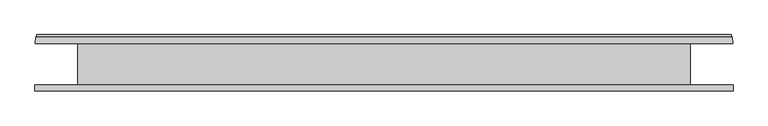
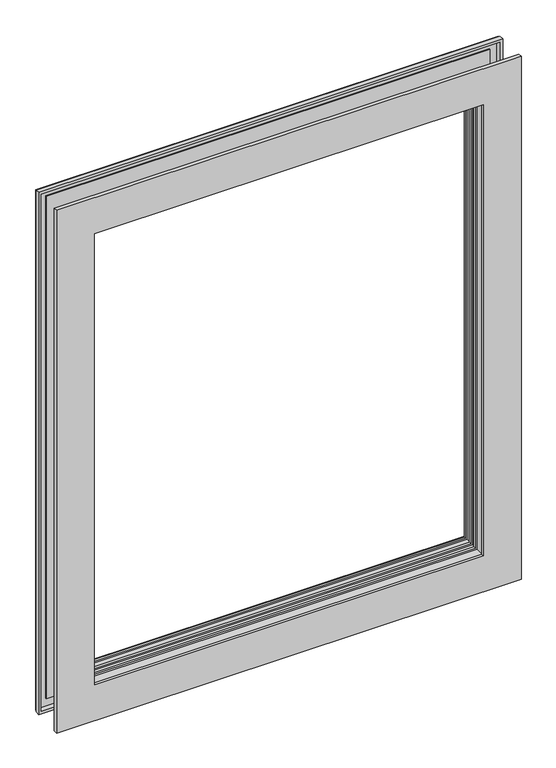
"""IFC4 building model written with IfcOpenShell, lengths in millimetres: plate geometry, Window-Profile-Danpal-AIRPT : Window-Profile-Danpal-AIRPT."""

from ifc_helpers import new_model, si_unit, origin, place, context, project, spatial, faceted_brep, source, transform, mapped, element, save


def plate_56173b51(model_context):
    return source(origin(), model_context, "Body", "Brep", [
        faceted_brep([(614.747596, -4.9191579, 1542.647596), (614.747596, -4.9191579, 16.352404), (614.747596, -10.6939057, 16.352404), (614.747596, -10.6939057, 1542.647596), (630.3467977, -1.4479515, 1558.2467977), (630.3467977, -1.4479515, 0.7532023), (630.3467977, -13.1939056, 1558.2467977), (630.3467977, -13.1939056, 0.7532023), (523.4575685, -6.1939056, 1451.3575685), (523.4575685, -6.1939056, 107.6424315), (523.4575685, -13.1939056, 107.6424315), (523.4575685, -13.1939056, 1451.3575685), (528.2575685, 24.6493556, 1456.1575685), (528.2575685, 24.6493556, 102.8424315), (528.2575685, -6.1939056, 102.8424315), (528.2575685, -6.1939056, 1456.1575685), (523.4575685, 31.6493728, 1451.3575685), (523.4575685, 31.6493728, 107.6424315), (523.4575685, 24.6493556, 107.6424315), (523.4575685, 24.6493556, 1451.3575685), (528.2575685, 46.4587019, 1456.1575685), (528.2575685, 46.4587019, 102.8424315), (528.2575685, 31.6493728, 102.8424315), (528.2575685, 31.6493728, 1456.1575685), (523.4575685, 53.4587019, 1451.3575685), (523.4575685, 53.4587019, 107.6424315), (523.4575685, 46.4587019, 107.6424315), (523.4575685, 46.4587019, 1451.3575685), (528.2575685, 72.8492839, 1456.1575685), (528.2575685, 72.8492839, 102.8424315), (528.2575685, 53.4587019, 102.8424315), (528.2575685, 53.4587019, 1456.1575685), (523.4575685, 78.8492839, 1451.3575685), (523.4575685, 78.8492839, 107.6424315), (523.4575685, 72.8492839, 107.6424315), (523.4575685, 72.8492839, 1451.3575685), (526.9648132, 75.8492839, 1454.8648132), (526.9648132, 75.8492839, 104.1351868), (526.9648132, 78.8492839, 104.1351868), (526.9648132, 78.8492839, 1454.8648132), (535.063156, 86.594775, 1462.963156), (535.063156, 86.594775, 96.036844), (535.063156, 75.8492839, 96.036844), (535.063156, 75.8492839, 1462.963156), (530.609428, 91.0992839, 1458.509428), (530.609428, 91.0992839, 100.490572), (530.609428, 86.594775, 100.490572), (530.609428, 86.594775, 1458.509428), (535.063156, 92.5992839, 1462.963156), (535.063156, 92.5992839, 96.036844), (535.063156, 91.0992839, 96.036844), (535.063156, 91.0992839, 1462.963156), (627.3575661, 87.7596953, 1555.2575661), (627.3575661, 87.7596953, 3.7424339), (627.3575661, 92.5992839, 3.7424339), (627.3575661, 92.5992839, 1555.2575661), (629.8850667, 75.8495036, 1557.7850667), (629.8850667, 75.8495036, 1.2149333), (629.1352379, 87.7596953, 1.9647621), (629.1352379, 87.7596953, 1557.0352379), (620.8960082, 87.7596953, 1548.7960082), (620.8960082, 87.7596953, 10.2039918), (622.0268893, 75.8495036, 9.0731107), (622.0268893, 75.8495036, 1549.9268893), (625.3575661, 90.7992837, 1553.2575661), (625.3575661, 90.7992837, 5.7424339), (625.3575661, 87.7596953, 5.7424339), (625.3575661, 87.7596953, 1553.2575661), (600.6106863, 89.0992837, 1528.5106863), (600.6106863, 89.0992837, 30.4893137), (600.6106863, 90.7992837, 30.4893137), (600.6106863, 90.7992837, 1528.5106863), (537.563156, 75.8495036, 1465.463156), (537.563156, 75.8495036, 93.536844), (537.563156, 89.0992837, 93.536844), (537.563156, 89.0992837, 1465.463156), (550.0785297, -10.6939057, 1477.9785297), (550.0785297, -10.6939057, 81.0214703), (550.0785297, 75.8495036, 81.0214703), (550.0785297, 75.8495036, 1477.9785297), (-664.447596, -4.9191579, 16.352404), (-664.447596, -10.6939057, 16.352404), (-680.0467977, -1.4479515, 0.7532023), (-680.0467977, -13.1939056, 0.7532023), (-573.1575685, -6.1939056, 107.6424315), (-573.1575685, -13.1939056, 107.6424315), (-577.9575685, 24.6493556, 102.8424315), (-577.9575685, -6.1939056, 102.8424315), (-573.1575685, 31.6493728, 107.6424315), (-573.1575685, 24.6493556, 107.6424315), (-577.9575685, 46.4587019, 102.8424315), (-577.9575685, 31.6493728, 102.8424315), (-573.1575685, 53.4587019, 107.6424315), (-573.1575685, 46.4587019, 107.6424315), (-577.9575685, 72.8492839, 102.8424315), (-577.9575685, 53.4587019, 102.8424315), (-573.1575685, 78.8492839, 107.6424315), (-573.1575685, 72.8492839, 107.6424315), (-576.6648132, 75.8492839, 104.1351868), (-576.6648132, 78.8492839, 104.1351868), (-584.763156, 86.594775, 96.036844), (-584.763156, 75.8492839, 96.036844), (-580.309428, 91.0992839, 100.490572), (-580.309428, 86.594775, 100.490572), (-584.763156, 92.5992839, 96.036844), (-584.763156, 91.0992839, 96.036844), (-677.0575661, 87.7596953, 3.7424339), (-677.0575661, 92.5992839, 3.7424339), (-679.5850667, 75.8495036, 1.2149333), (-678.8352379, 87.7596953, 1.9647621), (-670.5960082, 87.7596953, 10.2039918), (-671.7268893, 75.8495036, 9.0731107), (-675.0575661, 90.7992837, 5.7424339), (-675.0575661, 87.7596953, 5.7424339), (-650.3106863, 89.0992837, 30.4893137), (-650.3106863, 90.7992837, 30.4893137), (-587.263156, 75.8495036, 93.536844), (-587.263156, 89.0992837, 93.536844), (-599.7785297, -10.6939057, 81.0214703), (-599.7785297, 75.8495036, 81.0214703), (-664.447596, -4.9191579, 1542.647596), (-664.447596, -10.6939057, 1542.647596), (-680.0467977, -1.4479515, 1558.2467977), (-680.0467977, -13.1939056, 1558.2467977), (-573.1575685, -6.1939056, 1451.3575685), (-573.1575685, -13.1939056, 1451.3575685), (-577.9575685, 24.6493556, 1456.1575685), (-577.9575685, -6.1939056, 1456.1575685), (-573.1575685, 31.6493728, 1451.3575685), (-573.1575685, 24.6493556, 1451.3575685), (-577.9575685, 46.4587019, 1456.1575685), (-577.9575685, 31.6493728, 1456.1575685), (-573.1575685, 53.4587019, 1451.3575685), (-573.1575685, 46.4587019, 1451.3575685), (-577.9575685, 72.8492839, 1456.1575685), (-577.9575685, 53.4587019, 1456.1575685), (-573.1575685, 78.8492839, 1451.3575685), (-573.1575685, 72.8492839, 1451.3575685), (-576.6648132, 75.8492839, 1454.8648132), (-576.6648132, 78.8492839, 1454.8648132), (-584.763156, 86.594775, 1462.963156), (-584.763156, 75.8492839, 1462.963156), (-580.309428, 91.0992839, 1458.509428), (-580.309428, 86.594775, 1458.509428), (-584.763156, 92.5992839, 1462.963156), (-584.763156, 91.0992839, 1462.963156), (-677.0575661, 87.7596953, 1555.2575661), (-677.0575661, 92.5992839, 1555.2575661), (-679.5850667, 75.8495036, 1557.7850667), (-678.8352379, 87.7596953, 1557.0352379), (-670.5960082, 87.7596953, 1548.7960082), (-671.7268893, 75.8495036, 1549.9268893), (-675.0575661, 90.7992837, 1553.2575661), (-675.0575661, 87.7596953, 1553.2575661), (-650.3106863, 89.0992837, 1528.5106863), (-650.3106863, 90.7992837, 1528.5106863), (-587.263156, 75.8495036, 1465.463156), (-587.263156, 89.0992837, 1465.463156), (-599.7785297, -10.6939057, 1477.9785297), (-599.7785297, 75.8495036, 1477.9785297)], [[[0, 1, 2, 3]], [[4, 5, 1, 0]], [[6, 7, 5, 4]], [[8, 9, 10, 11]], [[12, 13, 14, 15]], [[16, 17, 18, 19]], [[20, 21, 22, 23]], [[24, 25, 26, 27]], [[28, 29, 30, 31]], [[32, 33, 34, 35]], [[36, 37, 38, 39]], [[40, 41, 42, 43]], [[44, 45, 46, 47]], [[48, 49, 50, 51]], [[52, 53, 54, 55]], [[56, 57, 58, 59]], [[60, 61, 62, 63]], [[64, 65, 66, 67]], [[68, 69, 70, 71]], [[72, 73, 74, 75]], [[76, 77, 78, 79]], [[1, 80, 81, 2]], [[5, 82, 80, 1]], [[7, 83, 82, 5]], [[9, 84, 85, 10]], [[13, 86, 87, 14]], [[17, 88, 89, 18]], [[21, 90, 91, 22]], [[25, 92, 93, 26]], [[29, 94, 95, 30]], [[33, 96, 97, 34]], [[37, 98, 99, 38]], [[41, 100, 101, 42]], [[45, 102, 103, 46]], [[49, 104, 105, 50]], [[53, 106, 107, 54]], [[57, 108, 109, 58]], [[61, 110, 111, 62]], [[65, 112, 113, 66]], [[69, 114, 115, 70]], [[73, 116, 117, 74]], [[77, 118, 119, 78]], [[80, 120, 121, 81]], [[82, 122, 120, 80]], [[83, 123, 122, 82]], [[84, 124, 125, 85]], [[86, 126, 127, 87]], [[88, 128, 129, 89]], [[90, 130, 131, 91]], [[92, 132, 133, 93]], [[94, 134, 135, 95]], [[96, 136, 137, 97]], [[98, 138, 139, 99]], [[100, 140, 141, 101]], [[102, 142, 143, 103]], [[104, 144, 145, 105]], [[106, 146, 147, 107]], [[108, 148, 149, 109]], [[110, 150, 151, 111]], [[112, 152, 153, 113]], [[114, 154, 155, 115]], [[116, 156, 157, 117]], [[118, 158, 159, 119]], [[3, 2, 81, 121], [77, 76, 158, 118]], [[120, 0, 3, 121]], [[122, 4, 0, 120]], [[123, 6, 4, 122]], [[7, 6, 123, 83], [11, 10, 85, 125]], [[124, 8, 11, 125]], [[15, 14, 87, 127], [9, 8, 124, 84]], [[126, 12, 15, 127]], [[13, 12, 126, 86], [19, 18, 89, 129]], [[128, 16, 19, 129]], [[23, 22, 91, 131], [17, 16, 128, 88]], [[130, 20, 23, 131]], [[21, 20, 130, 90], [27, 26, 93, 133]], [[132, 24, 27, 133]], [[31, 30, 95, 135], [25, 24, 132, 92]], [[134, 28, 31, 135]], [[29, 28, 134, 94], [35, 34, 97, 137]], [[136, 32, 35, 137]], [[39, 38, 99, 139], [33, 32, 136, 96]], [[138, 36, 39, 139]], [[43, 42, 101, 141], [37, 36, 138, 98]], [[140, 40, 43, 141]], [[41, 40, 140, 100], [47, 46, 103, 143]], [[142, 44, 47, 143]], [[51, 50, 105, 145], [45, 44, 142, 102]], [[144, 48, 51, 145]], [[55, 54, 107, 147], [49, 48, 144, 104]], [[146, 52, 55, 147]], [[59, 58, 109, 149], [53, 52, 146, 106]], [[148, 56, 59, 149]], [[57, 56, 148, 108], [63, 62, 111, 151]], [[150, 60, 63, 151]], [[67, 66, 113, 153], [61, 60, 150, 110]], [[152, 64, 67, 153]], [[65, 64, 152, 112], [71, 70, 115, 155]], [[154, 68, 71, 155]], [[69, 68, 154, 114], [75, 74, 117, 157]], [[156, 72, 75, 157]], [[79, 78, 119, 159], [73, 72, 156, 116]], [[158, 76, 79, 159]]]),
    ])


if __name__ == "__main__":
    model = new_model("IFC4")
    model_context = context("Model", 3, world=origin())
    ifc_project = project(units=[si_unit("LENGTHUNIT", "METRE", prefix="MILLI")], contexts=[model_context])
    site = spatial("IfcSite", under=ifc_project)
    building = spatial("IfcBuilding", under=site)
    placement = place(None, origin())
    plate_shape = plate_56173b51(model_context)
    element("IfcPlate", 1, ObjectType="Window-Profile-Danpal-AIRPT : Window-Profile-Danpal-AIRPT", at=placement, inside=building, context=model_context, shape_type="MappedRepresentation", body=[
        mapped(plate_shape, transform((0.0, 0.0, 0.0), x_axis=(1.0, 0.0, 0.0), y_axis=(0.0, 1.0, 0.0), z_axis=(0.0, 0.0, 1.0))),
    ])
    save(model, "model.ifc")
